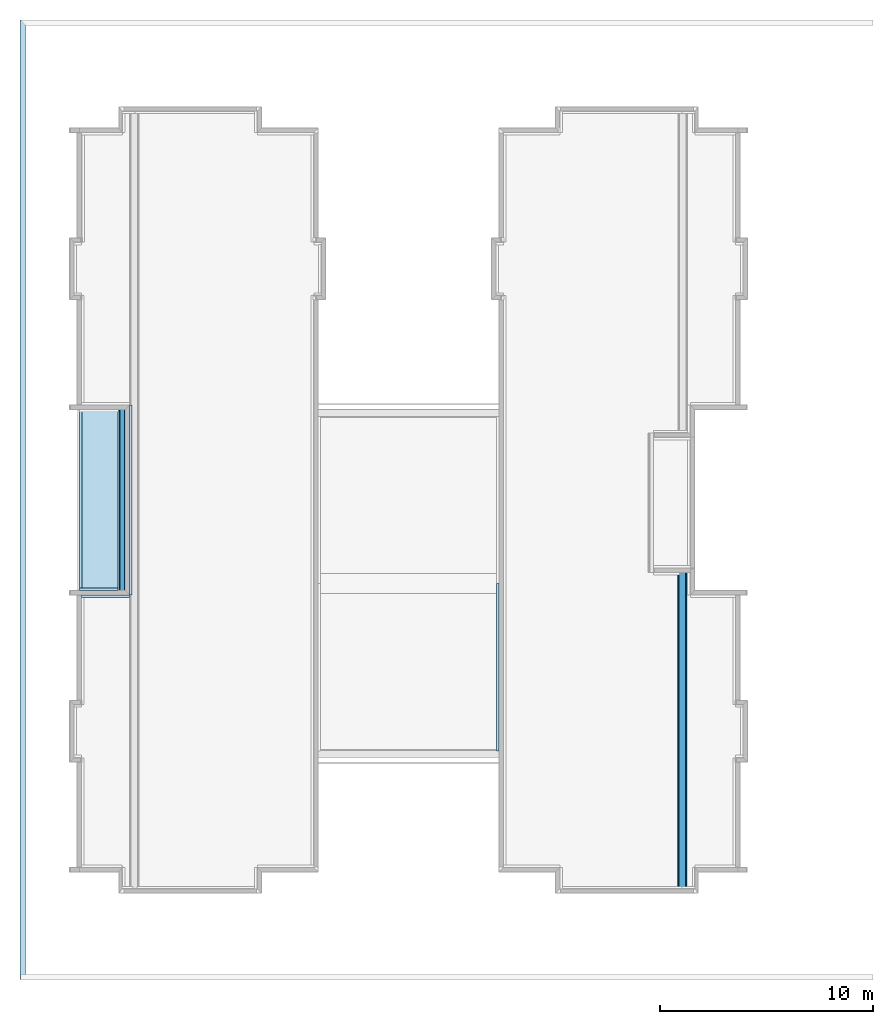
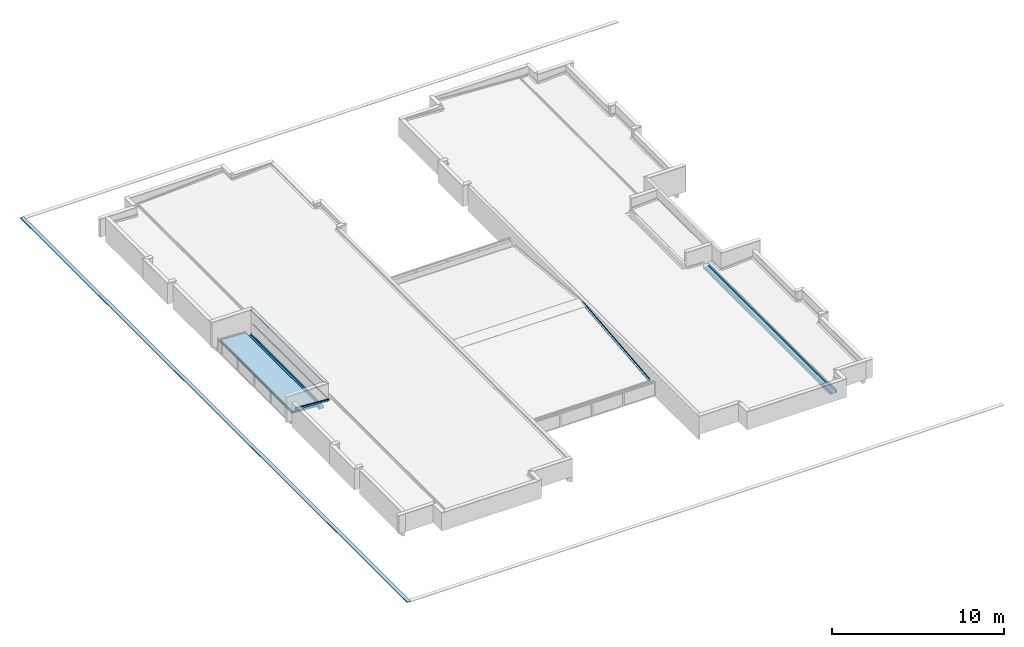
# One storey, part 10 of 25: 10 roofs.
"""IFC4 building model written with IfcOpenShell, lengths in metres."""

from ifc_helpers import new_model, entity, si_unit, converted_unit, derived_unit, direction, frame, origin_with_axes, place, context, subcontext, project, spatial, line, arc, indexed_curve, outline, composite_profile, extrude, clip, halfspace, material, material_profile, profile_set, type_object, element, save


model = new_model("IFC4")

# Units and contexts
model_context = context("Model", 3, precision=1e-05, world=origin_with_axes(), true_north=direction((0.0, 1.0)))
body_context = subcontext(model_context, "Body", "Model", "MODEL_VIEW")
ifc_project = project(units=[si_unit("LENGTHUNIT", "METRE"), si_unit("AREAUNIT", "SQUARE_METRE"), si_unit("VOLUMEUNIT", "CUBIC_METRE"), converted_unit("PLANEANGLEUNIT", "DEGREE", entity("IfcPlaneAngleMeasure", 0.0174532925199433), si_unit("PLANEANGLEUNIT", "RADIAN"), dimensions=[0, 0, 0, 0, 0, 0, 0]), converted_unit("TIMEUNIT", "Year", entity("IfcTimeMeasure", 31557600.0), si_unit("TIMEUNIT", "SECOND"), dimensions=[0, 0, 1, 0, 0, 0, 0]), si_unit("MASSUNIT", "GRAM", prefix="KILO"), si_unit("THERMODYNAMICTEMPERATUREUNIT", "DEGREE_CELSIUS"), si_unit("LUMINOUSINTENSITYUNIT", "LUMEN"), si_unit("ENERGYUNIT", "JOULE", prefix="MEGA"), derived_unit("THERMALCONDUCTANCEUNIT", [(si_unit("POWERUNIT", "WATT"), 1), (si_unit("LENGTHUNIT", "METRE"), -1), (si_unit("THERMODYNAMICTEMPERATUREUNIT", "KELVIN"), -1)]), derived_unit("SPECIFICHEATCAPACITYUNIT", [(si_unit("ENERGYUNIT", "JOULE"), 1), (si_unit("MASSUNIT", "GRAM", prefix="KILO"), -1), (si_unit("THERMODYNAMICTEMPERATUREUNIT", "KELVIN"), -1)]), derived_unit("MASSDENSITYUNIT", [(si_unit("MASSUNIT", "GRAM", prefix="KILO"), 1), (si_unit("VOLUMEUNIT", "CUBIC_METRE"), -1)])], contexts=[model_context])

# Site, building, storey
site_placement = place(None, origin_with_axes())
site = spatial("IfcSite", under=ifc_project, at=site_placement, Name="PADRÃO", CompositionType="ELEMENT")
building_placement = place(site_placement, origin_with_axes())
building = spatial("IfcBuilding", under=site, at=building_placement, Name="CRECHE PRÉ-ESCOLA TIPO 2", CompositionType="ELEMENT")
storey_placement = place(building_placement, frame((0.0, 0.0, 3.26), z_axis=(0.0, 0.0, 1.0), x_axis=(1.0, 0.0, 0.0)))
storey = spatial("IfcBuildingStorey", under=building, at=storey_placement, Name="COBERTURA", CompositionType="ELEMENT", Elevation=3.26)

# Roofs
ifc_material_1 = material(Name="TELHA METÁLICA TERMOACÚSTICA")
roof_type_1 = type_object("IfcRoofType", Name="TELHA METÁLICA TERMOACÚSTICA 70", PredefinedType="NOTDEFINED")
roof_1_placement = place(storey_placement, frame((-37.0311467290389, 18.2750698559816, 0.353215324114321), z_axis=(0.0, 0.0, 1.0), x_axis=(0.0, 1.0, 0.0)))
element("IfcRoof", 1, at=roof_1_placement, inside=storey, type_object=roof_type_1, material=ifc_material_1, Name="Cobert.-001", PredefinedType="NOTDEFINED", context=body_context, shape_type="SweptSolid", body=[
    extrude(outline(indexed_curve([(8.47493372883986, 0.21343452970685), (-0.0250669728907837, 0.21343452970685), (-0.0250669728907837, -1.61392774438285), (8.47493372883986, -1.61392774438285)], segments=[line(1, 2, 3, 4, 1)])), frame((0.0, 0.0, 0.0), z_axis=(0.0, -0.0603895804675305, 0.998174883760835), x_axis=(1.0, 0.0, 0.0)), (0.0, 0.0, 1.0), 0.07),
])
ifc_material_2 = material(Name="CALHA EM CHAPA DE AÇO GALVANIZADO")
ifc_material_profile_1 = material_profile(ifc_material_2, outline(indexed_curve([(-0.185177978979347, -0.064231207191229), (-0.175177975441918, -0.064231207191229), (-0.175177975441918, -0.0254631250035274), (-0.185177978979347, -0.0254630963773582)], segments=[line(1, 2, 3, 4, 1)])), Name="CALHA EM CHAPA DE AÇO GALVANIZADO 1")
ifc_material_profile_2 = material_profile(ifc_material_2, outline(indexed_curve([(-0.185177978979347, 0.160718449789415), (-0.185177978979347, -0.000465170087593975), (-0.175177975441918, -0.000465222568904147), (-0.175177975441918, 0.160718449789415)], segments=[line(1, 2, 3, 4, 1)])), Name="CALHA EM CHAPA DE AÇO GALVANIZADO 1")
ifc_material_profile_3 = material_profile(ifc_material_2, outline(indexed_curve([(-0.152991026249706, 0.146532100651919), (-0.152991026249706, -0.000465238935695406), (-0.150991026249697, -0.000465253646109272), (-0.150991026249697, 0.146532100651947), (-0.150698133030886, 0.147239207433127), (-0.149991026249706, 0.147532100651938), (-0.140664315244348, 0.147532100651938), (-0.140023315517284, 0.147299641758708), (-0.139680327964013, 0.146710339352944), (-0.115, -0.000465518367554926), (-0.112991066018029, -0.000465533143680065), (-0.13769516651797, 0.146960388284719), (-0.138700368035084, 0.148799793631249), (-0.140664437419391, 0.14953210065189), (-0.149991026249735, 0.14953210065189), (-0.152112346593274, 0.148653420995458)], segments=[line(1, 2, 3, 4), arc(4, 5, 6), line(6, 7), arc(7, 8, 9), line(9, 10, 11, 12), arc(12, 13, 14), line(14, 15), arc(15, 16, 1)])), Name="CALHA EM CHAPA DE AÇO GALVANIZADO 2")
ifc_material_profile_4 = material_profile(ifc_material_2, outline(indexed_curve([(-0.200177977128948, -0.025463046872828), (-0.185177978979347, -0.0254630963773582), (-0.175177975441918, -0.0254631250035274), (-0.0475010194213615, -0.0254635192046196), (0.0475010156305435, -0.0254635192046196), (0.12, -0.0254641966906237), (0.12, -0.000466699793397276), (0.117991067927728, -0.000466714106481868), (0.116009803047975, -0.000798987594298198), (0.116009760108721, -0.000466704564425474), (-0.112991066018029, -0.000465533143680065), (-0.115, -0.000465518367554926), (-0.150991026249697, -0.000465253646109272), (-0.152991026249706, -0.000465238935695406), (-0.175177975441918, -0.000465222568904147), (-0.185177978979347, -0.000465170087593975), (-0.200177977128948, -0.000465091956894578)], segments=[line(1, 2, 3, 4, 5, 6, 7, 8, 9, 10, 11, 12, 13, 14, 15, 16, 17, 1)])), Name="CALHA EM CHAPA DE AÇO GALVANIZADO 3")
ifc_material_profile_5 = material_profile(ifc_material_2, outline(indexed_curve([(0.11599079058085, 0.148682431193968), (0.116009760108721, -0.000466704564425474), (0.116009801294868, -0.000798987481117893), (0.117991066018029, -0.00046671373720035), (0.117989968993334, 0.148682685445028)], segments=[line(1, 2, 3, 4, 5, 1)])), Name="CALHA EM CHAPA DE AÇO GALVANIZADO 4")
ifc_profile_set_1 = profile_set([ifc_material_profile_1, ifc_material_profile_2, ifc_material_profile_3, ifc_material_profile_4, ifc_material_profile_5], Name="FNDE-Calha 2", composite=composite_profile([outline(indexed_curve([(-0.185177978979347, -0.064231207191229), (-0.175177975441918, -0.064231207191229), (-0.175177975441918, -0.0254631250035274), (-0.185177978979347, -0.0254630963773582)], segments=[line(1, 2, 3, 4, 1)])), outline(indexed_curve([(-0.185177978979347, 0.160718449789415), (-0.185177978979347, -0.000465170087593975), (-0.175177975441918, -0.000465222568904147), (-0.175177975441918, 0.160718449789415)], segments=[line(1, 2, 3, 4, 1)])), outline(indexed_curve([(-0.152991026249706, 0.146532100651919), (-0.152991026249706, -0.000465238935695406), (-0.150991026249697, -0.000465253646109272), (-0.150991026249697, 0.146532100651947), (-0.150698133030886, 0.147239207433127), (-0.149991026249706, 0.147532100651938), (-0.140664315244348, 0.147532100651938), (-0.140023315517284, 0.147299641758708), (-0.139680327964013, 0.146710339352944), (-0.115, -0.000465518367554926), (-0.112991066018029, -0.000465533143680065), (-0.13769516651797, 0.146960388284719), (-0.138700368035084, 0.148799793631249), (-0.140664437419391, 0.14953210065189), (-0.149991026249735, 0.14953210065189), (-0.152112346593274, 0.148653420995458)], segments=[line(1, 2, 3, 4), arc(4, 5, 6), line(6, 7), arc(7, 8, 9), line(9, 10, 11, 12), arc(12, 13, 14), line(14, 15), arc(15, 16, 1)])), outline(indexed_curve([(-0.200177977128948, -0.025463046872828), (-0.185177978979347, -0.0254630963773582), (-0.175177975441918, -0.0254631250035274), (-0.0475010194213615, -0.0254635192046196), (0.0475010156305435, -0.0254635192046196), (0.12, -0.0254641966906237), (0.12, -0.000466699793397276), (0.117991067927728, -0.000466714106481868), (0.116009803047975, -0.000798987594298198), (0.116009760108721, -0.000466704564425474), (-0.112991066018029, -0.000465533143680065), (-0.115, -0.000465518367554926), (-0.150991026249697, -0.000465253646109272), (-0.152991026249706, -0.000465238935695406), (-0.175177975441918, -0.000465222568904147), (-0.185177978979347, -0.000465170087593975), (-0.200177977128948, -0.000465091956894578)], segments=[line(1, 2, 3, 4, 5, 6, 7, 8, 9, 10, 11, 12, 13, 14, 15, 16, 17, 1)])), outline(indexed_curve([(0.11599079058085, 0.148682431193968), (0.116009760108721, -0.000466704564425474), (0.116009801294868, -0.000798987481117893), (0.117991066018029, -0.00046671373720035), (0.117989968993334, 0.148682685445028)], segments=[line(1, 2, 3, 4, 5, 1)]))]))
roof_type_2 = type_object("IfcRoofType", Name="FNDE-Calha 2 320 x 225", PredefinedType="NOTDEFINED")
roof_2_placement = place(storey_placement, frame((-35.2088454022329, 18.2500028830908, 0.0574814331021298), z_axis=(0.0, 0.0, 1.0), x_axis=(1.0, 0.0, 0.0)))
element("IfcRoof", 2, at=roof_2_placement, inside=storey, type_object=roof_type_2, material=ifc_profile_set_1, Name="V01", PredefinedType="NOTDEFINED", context=body_context, shape_type="SweptSolid", body=[
    extrude(composite_profile([outline(indexed_curve([(-0.185177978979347, -0.064231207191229), (-0.175177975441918, -0.064231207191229), (-0.175177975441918, -0.0254631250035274), (-0.185177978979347, -0.0254630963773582)], segments=[line(1, 2, 3, 4, 1)])), outline(indexed_curve([(-0.185177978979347, 0.160718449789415), (-0.185177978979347, -0.000465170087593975), (-0.175177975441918, -0.000465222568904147), (-0.175177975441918, 0.160718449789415)], segments=[line(1, 2, 3, 4, 1)])), outline(indexed_curve([(-0.152991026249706, 0.146532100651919), (-0.152991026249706, -0.000465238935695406), (-0.150991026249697, -0.000465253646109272), (-0.150991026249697, 0.146532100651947), (-0.150698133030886, 0.147239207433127), (-0.149991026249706, 0.147532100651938), (-0.140664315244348, 0.147532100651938), (-0.140023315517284, 0.147299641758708), (-0.139680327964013, 0.146710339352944), (-0.115, -0.000465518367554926), (-0.112991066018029, -0.000465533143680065), (-0.13769516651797, 0.146960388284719), (-0.138700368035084, 0.148799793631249), (-0.140664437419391, 0.14953210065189), (-0.149991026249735, 0.14953210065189), (-0.152112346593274, 0.148653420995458)], segments=[line(1, 2, 3, 4), arc(4, 5, 6), line(6, 7), arc(7, 8, 9), line(9, 10, 11, 12), arc(12, 13, 14), line(14, 15), arc(15, 16, 1)])), outline(indexed_curve([(-0.200177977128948, -0.025463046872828), (-0.185177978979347, -0.0254630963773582), (-0.175177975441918, -0.0254631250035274), (-0.0475010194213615, -0.0254635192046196), (0.0475010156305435, -0.0254635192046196), (0.12, -0.0254641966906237), (0.12, -0.000466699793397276), (0.117991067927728, -0.000466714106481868), (0.116009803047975, -0.000798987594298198), (0.116009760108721, -0.000466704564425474), (-0.112991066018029, -0.000465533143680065), (-0.115, -0.000465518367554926), (-0.150991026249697, -0.000465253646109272), (-0.152991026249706, -0.000465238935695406), (-0.175177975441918, -0.000465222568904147), (-0.185177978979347, -0.000465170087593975), (-0.200177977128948, -0.000465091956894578)], segments=[line(1, 2, 3, 4, 5, 6, 7, 8, 9, 10, 11, 12, 13, 14, 15, 16, 17, 1)])), outline(indexed_curve([(0.11599079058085, 0.148682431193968), (0.116009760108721, -0.000466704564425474), (0.116009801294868, -0.000798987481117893), (0.117991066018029, -0.00046671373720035), (0.117989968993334, 0.148682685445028)], segments=[line(1, 2, 3, 4, 5, 1)]))]), frame((0.0, 8.50000070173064, 0.0), z_axis=(0.0, -1.0, 0.0), x_axis=(1.0, 0.0, 0.0)), (0.0, 0.0, 1.0), 8.50000070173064),
])
ifc_material_3 = material(Name="RUFO EM CHAPA DE AÇO GALVANIZADO")
ifc_material_profile_6 = material_profile(ifc_material_3, outline(indexed_curve([(-0.123242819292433, 0.0), (-0.123136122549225, -0.000994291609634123), (-0.01, 0.0111462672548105), (-0.01, 0.0811462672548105), (0.000794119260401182, 0.0919771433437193), (8.58116060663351e-05, 0.0926830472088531), (-0.011, 0.0815594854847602), (-0.011, 0.0120446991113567), (-0.123136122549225, 1.14495535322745e-05)], segments=[line(1, 2, 3, 4, 5, 6, 7, 8, 9, 1)])), Name="RUFO EM CHAPA DE AÇO GALVANIZADO")
ifc_profile_set_2 = profile_set([ifc_material_profile_6], Name="FNDE-Rufo")
roof_type_3 = type_object("IfcRoofType", Name="FNDE-Rufo 124 x 94", PredefinedType="NOTDEFINED")
roof_3_placement = place(storey_placement, frame((-37.1406860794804, 18.0499995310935, 0.799889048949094), z_axis=(0.0, 0.0, 1.0), x_axis=(0.0, -1.0, 0.0)))
element("IfcRoof", 3, at=roof_3_placement, inside=storey, type_object=roof_type_3, material=ifc_profile_set_2, Name="V01", PredefinedType="NOTDEFINED", context=body_context, shape_type="Clipping", body=[
    clip(clip(extrude(outline(indexed_curve([(-0.123242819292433, 0.0), (-0.123136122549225, -0.000994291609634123), (-0.01, 0.0111462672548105), (-0.01, 0.0811462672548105), (0.000794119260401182, 0.0919771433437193), (8.58116060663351e-05, 0.0926830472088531), (-0.011, 0.0815594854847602), (-0.011, 0.0120446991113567), (-0.123136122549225, 1.14495535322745e-05)], segments=[line(1, 2, 3, 4, 5, 6, 7, 8, 9, 1)])), frame((0.0, 2.26104067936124, -0.134652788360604), z_axis=(0.0, 0.99823139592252, -0.0594481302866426), x_axis=(-1.0, 0.0, 0.0)), (0.0, 0.0, -1.0), 2.27549320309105), halfspace(frame((0.0, 0.0, 0.0), z_axis=(0.0, 1.0, 0.0), x_axis=(0.0, 0.0, 1.0)), True)), halfspace(frame((0.0, 2.25061260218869, 0.0), z_axis=(0.0, -1.0, 0.0), x_axis=(0.0, 0.0, -1.0)), True)),
])
roof_4_placement = place(storey_placement, frame((-37.2401019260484, 18.2500019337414, 0.435007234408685), z_axis=(0.0, 0.0, 1.0), x_axis=(1.0, 0.0, 0.0)))
element("IfcRoof", 4, at=roof_4_placement, inside=storey, type_object=roof_type_3, material=ifc_profile_set_2, Name="V01", PredefinedType="NOTDEFINED", context=body_context, shape_type="SweptSolid", body=[
    extrude(outline(indexed_curve([(-0.123242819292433, 0.0), (-0.123136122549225, -0.000994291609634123), (-0.01, 0.0111462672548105), (-0.01, 0.0811462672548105), (0.000794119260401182, 0.0919771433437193), (8.58116060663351e-05, 0.0926830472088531), (-0.011, 0.0815594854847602), (-0.011, 0.0120446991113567), (-0.123136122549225, 1.14495535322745e-05)], segments=[line(1, 2, 3, 4, 5, 6, 7, 8, 9, 1)])), frame((0.0, 8.50000070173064, 0.0), z_axis=(0.0, 1.0, 0.0), x_axis=(-1.0, 0.0, 0.0)), (0.0, 0.0, -1.0), 8.50000070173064),
])
roof_5_placement = place(storey_placement, frame((-35.4160099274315, 18.2500019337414, 0.325741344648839), z_axis=(0.0, 0.0, 1.0), x_axis=(0.0, 1.0, 0.0)))
element("IfcRoof", 5, at=roof_5_placement, inside=storey, type_object=roof_type_3, material=ifc_profile_set_2, Name="V02", PredefinedType="NOTDEFINED", context=body_context, shape_type="Clipping", body=[
    clip(clip(extrude(outline(indexed_curve([(-0.123242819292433, 0.0), (-0.123136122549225, -0.000994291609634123), (-0.01, 0.0111462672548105), (-0.01, 0.0811462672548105), (0.000794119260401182, 0.0919771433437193), (8.58116060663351e-05, 0.0926830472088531), (-0.011, 0.0815594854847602), (-0.011, 0.0120446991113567), (-0.123136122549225, 1.14495535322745e-05)], segments=[line(1, 2, 3, 4, 5, 6, 7, 8, 9, 1)])), frame((0.0, 1.83458080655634, 0.109894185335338), z_axis=(0.0, 0.998210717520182, 0.0597943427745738), x_axis=(-1.0, 0.0, 0.0)), (0.0, 0.0, -1.0), 1.84837688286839), halfspace(frame((0.0, 0.0, 0.0), z_axis=(0.0, 1.0, 0.0), x_axis=(0.0, 0.0, 1.0)), True)), halfspace(frame((0.0, 1.8240919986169, 0.0), z_axis=(0.0, -1.0, 0.0), x_axis=(0.0, 0.0, -1.0)), True)),
])
roof_6_placement = place(storey_placement, frame((-34.8937431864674, 26.9500040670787, 0.605200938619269), z_axis=(0.0, 0.0, 1.0), x_axis=(-0.999999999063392, 4.32806632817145e-05, 0.0)))
element("IfcRoof", 6, at=roof_6_placement, inside=storey, type_object=roof_type_3, material=ifc_profile_set_2, Name="V01", PredefinedType="NOTDEFINED", context=body_context, shape_type="SweptSolid", body=[
    extrude(outline(indexed_curve([(-0.123242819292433, 0.0), (-0.123136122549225, -0.000994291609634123), (-0.01, 0.0111462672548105), (-0.01, 0.0811462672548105), (0.000794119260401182, 0.0919771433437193), (8.58116060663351e-05, 0.0926830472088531), (-0.011, 0.0815594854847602), (-0.011, 0.0120446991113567), (-0.123136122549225, 1.14495535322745e-05)], segments=[line(1, 2, 3, 4, 5, 6, 7, 8, 9, 1)])), frame((0.0, 8.90000452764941, 0.0), z_axis=(0.0, -1.0, 0.0), x_axis=(1.0, 0.0, 0.0)), (0.0, 0.0, 1.0), 8.90000452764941),
])
roof_7_placement = place(storey_placement, frame((-17.5400505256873, 10.7216836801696, 0.423251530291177), z_axis=(0.0, 0.0, 1.0), x_axis=(1.0, 0.0, 0.0)))
element("IfcRoof", 7, at=roof_7_placement, inside=storey, type_object=roof_type_3, material=ifc_profile_set_2, Name="V07", PredefinedType="NOTDEFINED", context=body_context, shape_type="Clipping", body=[
    clip(clip(extrude(outline(indexed_curve([(-0.123242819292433, 0.0), (-0.123136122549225, -0.000994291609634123), (-0.01, 0.0111462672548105), (-0.01, 0.0811462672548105), (0.000794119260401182, 0.0919771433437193), (8.58116060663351e-05, 0.0926830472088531), (-0.011, 0.0815594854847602), (-0.011, 0.0120446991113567), (-0.123136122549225, 1.14495535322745e-05)], segments=[line(1, 2, 3, 4, 5, 6, 7, 8, 9, 1)])), frame((0.0, 7.87091076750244, 0.787270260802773), z_axis=(0.0, -0.995034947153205, -0.0995261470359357), x_axis=(1.0, 0.0, 0.0)), (0.0, 0.0, 1.0), 7.92773072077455), halfspace(frame((0.0, 0.0, 0.0), z_axis=(0.0, 1.0, 0.0), x_axis=(0.0, 0.0, 1.0)), True)), halfspace(frame((0.0, 7.85345241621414, 0.0), z_axis=(0.0, -1.0, 0.0), x_axis=(0.0, 0.0, -1.0)), True)),
])
ifc_material_4 = material(Name="PINGADEIRA EM CHAPA DE AÇO GALVANIZADO")
ifc_material_profile_7 = material_profile(ifc_material_4, outline(indexed_curve([(0.00496259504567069, -0.0184313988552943), (0.0250000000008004, -0.03), (0.0250000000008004, 0.01), (-0.225020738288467, 0.01), (-0.22503740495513, -0.03), (-0.205, -0.0184313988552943), (-0.2055, -0.0175653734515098), (-0.224036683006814, -0.0282675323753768), (-0.224021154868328, 0.009), (0.0240000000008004, 0.009), (0.0240000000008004, -0.0282679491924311), (0.00546259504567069, -0.0175653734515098)], segments=[line(1, 2, 3, 4, 5, 6, 7, 8, 9, 10, 11, 12, 1)])), Name="PINGADEIRA EM CHAPA DE AÇO GALVANIZADO")
ifc_profile_set_3 = profile_set([ifc_material_profile_7], Name="FNDE-Pingadeira em chapa de aço galvanizado")
roof_type_4 = type_object("IfcRoofType", Name="FNDE-Pingadeira em chapa de aço galvanizado 250 x 40", PredefinedType="NOTDEFINED")
roof_8_placement = place(storey_placement, frame((-35.0900726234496, 26.750002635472, 1.86), z_axis=(0.0, 0.0, 1.0), x_axis=(-0.999999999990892, -4.26809234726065e-06, 0.0)))
element("IfcRoof", 8, at=roof_8_placement, inside=storey, type_object=roof_type_4, material=ifc_profile_set_3, Name="V01", PredefinedType="NOTDEFINED", context=body_context, shape_type="SweptSolid", body=[
    extrude(outline(indexed_curve([(0.00496259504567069, -0.0184313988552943), (0.0250000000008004, -0.03), (0.0250000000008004, 0.01), (-0.225020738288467, 0.01), (-0.22503740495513, -0.03), (-0.205, -0.0184313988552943), (-0.2055, -0.0175653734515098), (-0.224036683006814, -0.0282675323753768), (-0.224021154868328, 0.009), (0.0240000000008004, 0.009), (0.0240000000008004, -0.0282679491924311), (0.00546259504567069, -0.0175653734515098)], segments=[line(1, 2, 3, 4, 5, 6, 7, 8, 9, 10, 11, 12, 1)])), frame((0.0, 8.50000070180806, 0.0), z_axis=(0.0, -1.0, 0.0), x_axis=(1.0, 0.0, 0.0)), (0.0, 0.0, 1.0), 8.50000070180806),
])
roof_9_placement = place(storey_placement, frame((-40.0, 45.0, -0.98), z_axis=(0.0, 0.0, 1.0), x_axis=(-1.0, 0.0, 0.0)))
element("IfcRoof", 9, at=roof_9_placement, inside=storey, type_object=roof_type_4, material=ifc_profile_set_3, Name="V02", PredefinedType="NOTDEFINED", context=body_context, shape_type="SweptSolid", body=[
    extrude(outline(indexed_curve([(0.00496259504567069, -0.0184313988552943), (0.0250000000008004, -0.03), (0.0250000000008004, 0.01), (-0.225020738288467, 0.01), (-0.22503740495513, -0.03), (-0.205, -0.0184313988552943), (-0.2055, -0.0175653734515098), (-0.224036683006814, -0.0282675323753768), (-0.224021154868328, 0.009), (0.0240000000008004, 0.009), (0.0240000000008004, -0.0282679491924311), (0.00546259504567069, -0.0175653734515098)], segments=[line(1, 2, 3, 4, 5, 6, 7, 8, 9, 10, 11, 12, 1)])), frame((0.0, 45.0, 0.0), z_axis=(0.0, -1.0, 0.0), x_axis=(1.0, 0.0, 0.0)), (0.0, 0.0, 1.0), 45.0),
])
ifc_material_profile_8 = material_profile(ifc_material_2, outline(indexed_curve([(0.201344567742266, -0.0546026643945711), (0.211344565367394, -0.0546026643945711), (0.211344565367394, -0.0254650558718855), (0.201344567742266, -0.0254649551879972)], segments=[line(1, 2, 3, 4, 1)])), Name="CALHA EM CHAPA DE AÇO GALVANIZADO 1")
ifc_material_profile_9 = material_profile(ifc_material_2, outline(indexed_curve([(0.211344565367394, 0.170194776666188), (0.201344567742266, 0.170194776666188), (0.201344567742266, -0.000467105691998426), (0.211344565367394, -0.000467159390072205)], segments=[line(1, 2, 3, 4, 1)])), Name="CALHA EM CHAPA DE AÇO GALVANIZADO 1")
ifc_material_profile_10 = material_profile(ifc_material_2, outline(indexed_curve([(-0.210177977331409, -0.0642311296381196), (-0.200177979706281, -0.0642311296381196), (-0.200177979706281, -0.0254630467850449), (-0.210177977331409, -0.0254630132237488)], segments=[line(1, 2, 3, 4, 1)])), Name="CALHA EM CHAPA DE AÇO GALVANIZADO 2")
ifc_material_profile_11 = material_profile(ifc_material_2, outline(indexed_curve([(-0.200177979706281, 0.160718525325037), (-0.210177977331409, 0.160718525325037), (-0.210177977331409, -0.00046508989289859), (-0.200177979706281, -0.000465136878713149)], segments=[line(1, 2, 3, 4, 1)])), Name="CALHA EM CHAPA DE AÇO GALVANIZADO 2")
ifc_material_profile_12 = material_profile(ifc_material_2, outline(indexed_curve([(-0.189999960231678, 0.146532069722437), (-0.189999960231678, -0.000465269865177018), (-0.187999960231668, -0.000465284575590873), (-0.187999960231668, 0.146532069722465), (-0.187707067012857, 0.147239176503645), (-0.186999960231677, 0.147532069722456), (-0.177673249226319, 0.147532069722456), (-0.177032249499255, 0.147299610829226), (-0.176689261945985, 0.146710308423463), (-0.152008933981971, -0.000465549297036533), (-0.15, -0.000465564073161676), (-0.174704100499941, 0.146960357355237), (-0.175709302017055, 0.148799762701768), (-0.177673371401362, 0.149532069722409), (-0.186999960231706, 0.149532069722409), (-0.189121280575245, 0.148653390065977)], segments=[line(1, 2, 3, 4), arc(4, 5, 6), line(6, 7), arc(7, 8, 9), line(9, 10, 11, 12), arc(12, 13, 14), line(14, 15), arc(15, 16, 1)])), Name="CALHA EM CHAPA DE AÇO GALVANIZADO 3")
ifc_material_profile_13 = material_profile(ifc_material_2, outline(indexed_curve([(-0.225177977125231, -0.000465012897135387), (-0.225177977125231, -0.0254629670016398), (-0.210177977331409, -0.0254630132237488), (-0.200177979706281, -0.0254630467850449), (-0.0475010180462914, -0.0254635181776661), (0.0475010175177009, -0.0254635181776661), (0.201344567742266, -0.0254649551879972), (0.211344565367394, -0.0254650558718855), (0.225273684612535, -0.0254651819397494), (0.225273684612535, -0.000467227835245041), (0.211344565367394, -0.000467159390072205), (0.201344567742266, -0.000467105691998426), (0.189999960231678, -0.000465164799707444), (0.187999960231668, -0.000465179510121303), (0.152008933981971, -0.000465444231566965), (0.15, -0.000465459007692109), (-0.15, -0.000465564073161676), (-0.152008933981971, -0.000465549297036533), (-0.187999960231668, -0.000465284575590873), (-0.189999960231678, -0.000465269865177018), (-0.200177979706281, -0.000465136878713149), (-0.210177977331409, -0.00046508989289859)], segments=[line(1, 2, 3, 4, 5, 6, 7, 8, 9, 10, 11, 12, 13, 14, 15, 16, 17, 18, 19, 20, 21, 22, 1)])), Name="CALHA EM CHAPA DE AÇO GALVANIZADO 4")
ifc_material_profile_14 = material_profile(ifc_material_2, outline(indexed_curve([(0.186999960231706, 0.149532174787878), (0.177673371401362, 0.149532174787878), (0.175709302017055, 0.148799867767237), (0.174704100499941, 0.146960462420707), (0.15, -0.000465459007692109), (0.152008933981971, -0.000465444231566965), (0.176689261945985, 0.146710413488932), (0.177032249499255, 0.147299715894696), (0.177673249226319, 0.147532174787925), (0.186999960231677, 0.147532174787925), (0.187707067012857, 0.147239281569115), (0.187999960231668, 0.146532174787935), (0.187999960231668, -0.000465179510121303), (0.189999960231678, -0.000465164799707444), (0.189999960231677, 0.146532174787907), (0.189121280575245, 0.148653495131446)], segments=[line(1, 2), arc(2, 3, 4), line(4, 5, 6, 7), arc(7, 8, 9), line(9, 10), arc(10, 11, 12), line(12, 13, 14, 15), arc(15, 16, 1)])), Name="CALHA EM CHAPA DE AÇO GALVANIZADO 5")
ifc_profile_set_4 = profile_set([ifc_material_profile_8, ifc_material_profile_9, ifc_material_profile_10, ifc_material_profile_11, ifc_material_profile_12, ifc_material_profile_13, ifc_material_profile_14], Name="FNDE-Calha", composite=composite_profile([outline(indexed_curve([(0.201344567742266, -0.0546026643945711), (0.211344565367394, -0.0546026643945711), (0.211344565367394, -0.0254650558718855), (0.201344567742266, -0.0254649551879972)], segments=[line(1, 2, 3, 4, 1)])), outline(indexed_curve([(0.211344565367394, 0.170194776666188), (0.201344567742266, 0.170194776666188), (0.201344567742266, -0.000467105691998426), (0.211344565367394, -0.000467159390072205)], segments=[line(1, 2, 3, 4, 1)])), outline(indexed_curve([(-0.210177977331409, -0.0642311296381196), (-0.200177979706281, -0.0642311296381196), (-0.200177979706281, -0.0254630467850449), (-0.210177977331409, -0.0254630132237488)], segments=[line(1, 2, 3, 4, 1)])), outline(indexed_curve([(-0.200177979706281, 0.160718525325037), (-0.210177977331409, 0.160718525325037), (-0.210177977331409, -0.00046508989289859), (-0.200177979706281, -0.000465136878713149)], segments=[line(1, 2, 3, 4, 1)])), outline(indexed_curve([(-0.189999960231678, 0.146532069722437), (-0.189999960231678, -0.000465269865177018), (-0.187999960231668, -0.000465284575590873), (-0.187999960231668, 0.146532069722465), (-0.187707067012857, 0.147239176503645), (-0.186999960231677, 0.147532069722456), (-0.177673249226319, 0.147532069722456), (-0.177032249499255, 0.147299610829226), (-0.176689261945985, 0.146710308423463), (-0.152008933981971, -0.000465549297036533), (-0.15, -0.000465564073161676), (-0.174704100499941, 0.146960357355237), (-0.175709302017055, 0.148799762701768), (-0.177673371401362, 0.149532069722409), (-0.186999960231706, 0.149532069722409), (-0.189121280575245, 0.148653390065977)], segments=[line(1, 2, 3, 4), arc(4, 5, 6), line(6, 7), arc(7, 8, 9), line(9, 10, 11, 12), arc(12, 13, 14), line(14, 15), arc(15, 16, 1)])), outline(indexed_curve([(-0.225177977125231, -0.000465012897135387), (-0.225177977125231, -0.0254629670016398), (-0.210177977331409, -0.0254630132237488), (-0.200177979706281, -0.0254630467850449), (-0.0475010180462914, -0.0254635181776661), (0.0475010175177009, -0.0254635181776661), (0.201344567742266, -0.0254649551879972), (0.211344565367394, -0.0254650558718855), (0.225273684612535, -0.0254651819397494), (0.225273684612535, -0.000467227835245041), (0.211344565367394, -0.000467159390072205), (0.201344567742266, -0.000467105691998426), (0.189999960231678, -0.000465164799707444), (0.187999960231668, -0.000465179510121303), (0.152008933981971, -0.000465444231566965), (0.15, -0.000465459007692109), (-0.15, -0.000465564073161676), (-0.152008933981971, -0.000465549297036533), (-0.187999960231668, -0.000465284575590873), (-0.189999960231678, -0.000465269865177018), (-0.200177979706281, -0.000465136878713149), (-0.210177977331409, -0.00046508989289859)], segments=[line(1, 2, 3, 4, 5, 6, 7, 8, 9, 10, 11, 12, 13, 14, 15, 16, 17, 18, 19, 20, 21, 22, 1)])), outline(indexed_curve([(0.186999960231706, 0.149532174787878), (0.177673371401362, 0.149532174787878), (0.175709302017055, 0.148799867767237), (0.174704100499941, 0.146960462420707), (0.15, -0.000465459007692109), (0.152008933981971, -0.000465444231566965), (0.176689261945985, 0.146710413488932), (0.177032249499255, 0.147299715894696), (0.177673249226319, 0.147532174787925), (0.186999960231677, 0.147532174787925), (0.187707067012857, 0.147239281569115), (0.187999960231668, 0.146532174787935), (0.187999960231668, -0.000465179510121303), (0.189999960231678, -0.000465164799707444), (0.189999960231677, 0.146532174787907), (0.189121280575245, 0.148653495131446)], segments=[line(1, 2), arc(2, 3, 4), line(4, 5, 6, 7), arc(7, 8, 9), line(9, 10), arc(10, 11, 12), line(12, 13, 14, 15), arc(15, 16, 1)]))]))
roof_type_5 = type_object("IfcRoofType", Name="FNDE-Calha 450 x 234", PredefinedType="NOTDEFINED")
roof_10_placement = place(storey_placement, frame((-8.95639097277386, 4.25015619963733, 0.4152), z_axis=(0.0, 0.0, 1.0), x_axis=(1.0, 0.0, 0.0)))
element("IfcRoof", 10, at=roof_10_placement, inside=storey, type_object=roof_type_5, material=ifc_profile_set_4, Name="V01", PredefinedType="NOTDEFINED", context=body_context, shape_type="SweptSolid", body=[
    extrude(composite_profile([outline(indexed_curve([(0.201344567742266, -0.0546026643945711), (0.211344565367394, -0.0546026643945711), (0.211344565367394, -0.0254650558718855), (0.201344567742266, -0.0254649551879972)], segments=[line(1, 2, 3, 4, 1)])), outline(indexed_curve([(0.211344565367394, 0.170194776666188), (0.201344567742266, 0.170194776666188), (0.201344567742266, -0.000467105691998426), (0.211344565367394, -0.000467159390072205)], segments=[line(1, 2, 3, 4, 1)])), outline(indexed_curve([(-0.210177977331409, -0.0642311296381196), (-0.200177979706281, -0.0642311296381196), (-0.200177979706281, -0.0254630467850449), (-0.210177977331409, -0.0254630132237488)], segments=[line(1, 2, 3, 4, 1)])), outline(indexed_curve([(-0.200177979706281, 0.160718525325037), (-0.210177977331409, 0.160718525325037), (-0.210177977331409, -0.00046508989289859), (-0.200177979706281, -0.000465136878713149)], segments=[line(1, 2, 3, 4, 1)])), outline(indexed_curve([(-0.189999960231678, 0.146532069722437), (-0.189999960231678, -0.000465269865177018), (-0.187999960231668, -0.000465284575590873), (-0.187999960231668, 0.146532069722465), (-0.187707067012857, 0.147239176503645), (-0.186999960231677, 0.147532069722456), (-0.177673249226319, 0.147532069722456), (-0.177032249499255, 0.147299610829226), (-0.176689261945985, 0.146710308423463), (-0.152008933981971, -0.000465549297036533), (-0.15, -0.000465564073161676), (-0.174704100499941, 0.146960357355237), (-0.175709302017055, 0.148799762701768), (-0.177673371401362, 0.149532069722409), (-0.186999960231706, 0.149532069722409), (-0.189121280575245, 0.148653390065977)], segments=[line(1, 2, 3, 4), arc(4, 5, 6), line(6, 7), arc(7, 8, 9), line(9, 10, 11, 12), arc(12, 13, 14), line(14, 15), arc(15, 16, 1)])), outline(indexed_curve([(-0.225177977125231, -0.000465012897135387), (-0.225177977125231, -0.0254629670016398), (-0.210177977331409, -0.0254630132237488), (-0.200177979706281, -0.0254630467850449), (-0.0475010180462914, -0.0254635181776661), (0.0475010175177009, -0.0254635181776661), (0.201344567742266, -0.0254649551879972), (0.211344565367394, -0.0254650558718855), (0.225273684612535, -0.0254651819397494), (0.225273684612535, -0.000467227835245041), (0.211344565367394, -0.000467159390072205), (0.201344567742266, -0.000467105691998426), (0.189999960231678, -0.000465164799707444), (0.187999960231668, -0.000465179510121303), (0.152008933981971, -0.000465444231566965), (0.15, -0.000465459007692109), (-0.15, -0.000465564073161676), (-0.152008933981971, -0.000465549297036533), (-0.187999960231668, -0.000465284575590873), (-0.189999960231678, -0.000465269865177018), (-0.200177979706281, -0.000465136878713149), (-0.210177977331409, -0.00046508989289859)], segments=[line(1, 2, 3, 4, 5, 6, 7, 8, 9, 10, 11, 12, 13, 14, 15, 16, 17, 18, 19, 20, 21, 22, 1)])), outline(indexed_curve([(0.186999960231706, 0.149532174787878), (0.177673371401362, 0.149532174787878), (0.175709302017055, 0.148799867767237), (0.174704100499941, 0.146960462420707), (0.15, -0.000465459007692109), (0.152008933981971, -0.000465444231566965), (0.176689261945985, 0.146710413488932), (0.177032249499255, 0.147299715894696), (0.177673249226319, 0.147532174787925), (0.186999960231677, 0.147532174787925), (0.187707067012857, 0.147239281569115), (0.187999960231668, 0.146532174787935), (0.187999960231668, -0.000465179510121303), (0.189999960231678, -0.000465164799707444), (0.189999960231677, 0.146532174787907), (0.189121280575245, 0.148653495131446)], segments=[line(1, 2), arc(2, 3, 4), line(4, 5, 6, 7), arc(7, 8, 9), line(9, 10), arc(10, 11, 12), line(12, 13, 14, 15), arc(15, 16, 1)]))]), frame((0.0, 14.8499997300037, 0.0), z_axis=(0.0, -1.0, 0.0), x_axis=(1.0, 0.0, 0.0)), (0.0, 0.0, 1.0), 14.8499997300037),
])

save(model, "model.ifc")
